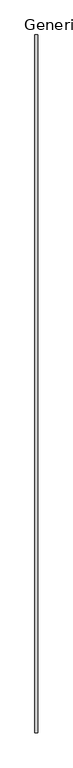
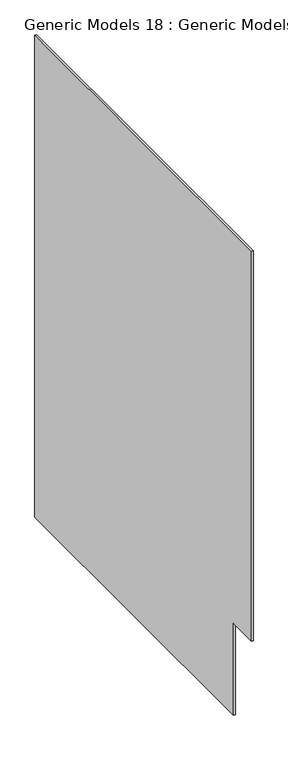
"""IFC4 building model written with IfcOpenShell, lengths in millimetres: proxy geometry, Generic Models 18 : Generic Models 18."""

from ifc_helpers import new_model, si_unit, frame, origin, place, context, project, spatial, polyline, outline, extrude, source, transform, mapped, element, save


def generic_models_18_generic_models_18_ca94e609(model_context):
    return source(origin(), model_context, "Body", "SweptSolid", [
        extrude(outline(polyline([(7786.4319424, 15723.9), (7786.4319424, 0.0), (-2849.4449025, 0.0), (-2849.4449025, 3000.0), (-3813.5680576, 3000.0), (-3813.5680576, 15723.9), (7786.4319424, 15723.9)])), frame((-3468.5171482, 0.0, 0.0), z_axis=(1.0, 0.0, 0.0), x_axis=(0.0, 1.0, 0.0)), (0.0, 0.0, 1.0), 50.0),
    ])


if __name__ == "__main__":
    model = new_model("IFC4")
    model_context = context("Model", 3, world=origin())
    ifc_project = project(units=[si_unit("LENGTHUNIT", "METRE", prefix="MILLI")], contexts=[model_context])
    site = spatial("IfcSite", under=ifc_project)
    building = spatial("IfcBuilding", under=site)
    placement = place(None, origin())
    generic_models_18_generic_models_18_shape = generic_models_18_generic_models_18_ca94e609(model_context)
    element("IfcBuildingElementProxy", 1, Name="Generic Models 18 : Generic Models 18", ObjectType="Generic Models 18 : Generic Models 18", at=placement, inside=building, context=model_context, shape_type="MappedRepresentation", body=[
        mapped(generic_models_18_generic_models_18_shape, transform((0.0, 0.0, 0.0), x_axis=(1.0, 0.0, 0.0), y_axis=(0.0, 1.0, 0.0), z_axis=(0.0, 0.0, 1.0))),
    ])
    save(model, "model.ifc")
